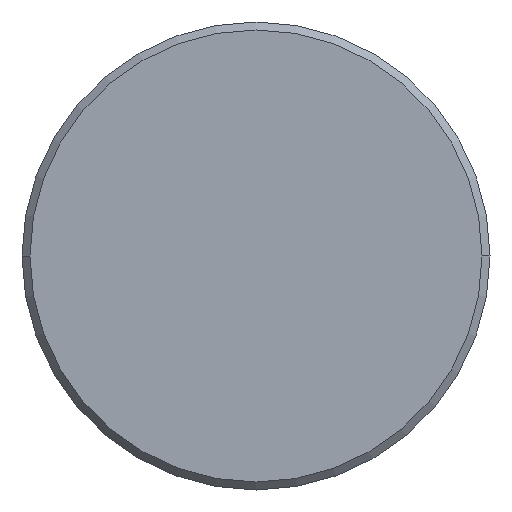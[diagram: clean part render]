
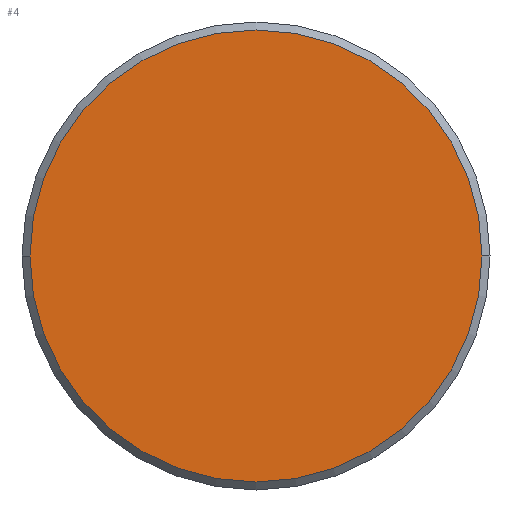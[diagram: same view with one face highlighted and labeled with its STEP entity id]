
A CAD part, left-side view. The second image highlights one B-rep face of the part: STEP entity #4.
In plain terms, the highlighted planar face has unit normal (-1, 0, 0).
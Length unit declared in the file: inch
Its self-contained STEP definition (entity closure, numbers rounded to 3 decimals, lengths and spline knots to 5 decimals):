
#4 = ADVANCED_FACE ( 'NONE', ( #285 ), #313, .T. ) ;
#5 = DIRECTION ( 'NONE',  ( 0., -1., 0. ) ) ;
#18 = VERTEX_POINT ( 'NONE', #286 ) ;
#27 = ORIENTED_EDGE ( 'NONE', *, *, #215, .T. ) ;
#72 = DIRECTION ( 'NONE',  ( 0., -1., 0. ) ) ;
#79 = DIRECTION ( 'NONE',  ( 0., -1., 0. ) ) ;
#99 = CIRCLE ( 'NONE', #108, 0.11319 ) ;
#103 = ORIENTED_EDGE ( 'NONE', *, *, #156, .T. ) ;
#108 = AXIS2_PLACEMENT_3D ( 'NONE', #265, #146, #5 ) ;
#146 = DIRECTION ( 'NONE',  ( -1., 0., 0. ) ) ;
#156 = EDGE_CURVE ( 'NONE', #18, #217, #239, .T. ) ;
#168 = AXIS2_PLACEMENT_3D ( 'NONE', #317, #191, #72 ) ;
#173 = DIRECTION ( 'NONE',  ( -1., 0., 0. ) ) ;
#176 = EDGE_LOOP ( 'NONE', ( #27, #103 ) ) ;
#190 = AXIS2_PLACEMENT_3D ( 'NONE', #325, #173, #79 ) ;
#191 = DIRECTION ( 'NONE',  ( -1., 0., 0. ) ) ;
#215 = EDGE_CURVE ( 'NONE', #217, #18, #99, .T. ) ;
#217 = VERTEX_POINT ( 'NONE', #296 ) ;
#239 = CIRCLE ( 'NONE', #190, 0.11319 ) ;
#265 = CARTESIAN_POINT ( 'NONE',  ( 0., 0., 0. ) ) ;
#285 = FACE_OUTER_BOUND ( 'NONE', #176, .T. ) ;
#286 = CARTESIAN_POINT ( 'NONE',  ( 0., -0.11319, 0. ) ) ;
#296 = CARTESIAN_POINT ( 'NONE',  ( 0., 0.11319, 0. ) ) ;
#313 = PLANE ( 'NONE',  #168 ) ;
#317 = CARTESIAN_POINT ( 'NONE',  ( 0., 0., 0. ) ) ;
#325 = CARTESIAN_POINT ( 'NONE',  ( 0., 0., 0. ) ) ;
